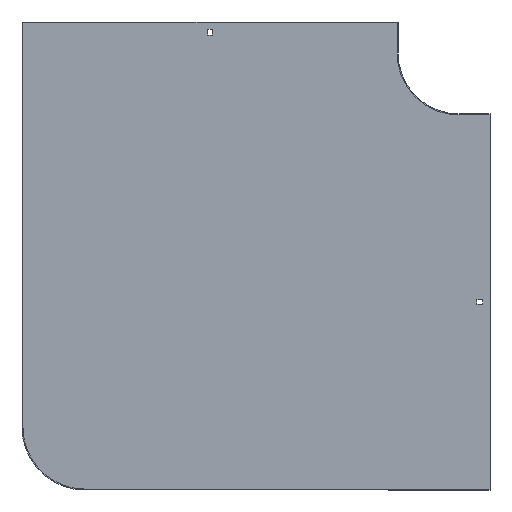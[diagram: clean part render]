
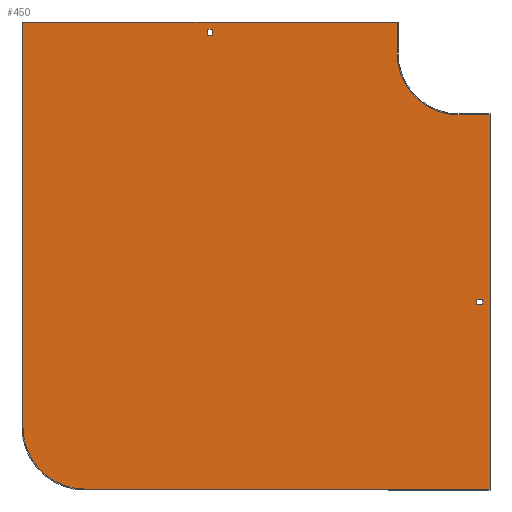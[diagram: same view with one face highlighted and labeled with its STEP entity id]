
A CAD part, front view. The second image highlights one B-rep face of the part: STEP entity #450.
In plain terms, the highlighted planar face has unit normal (0, -1, 0).
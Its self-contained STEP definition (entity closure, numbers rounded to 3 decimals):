
#4 = DIRECTION ( 'NONE',  ( 1., 0., 0. ) ) ;
#10 = CIRCLE ( 'NONE', #461, 100. ) ;
#13 = LINE ( 'NONE', #540, #410 ) ;
#17 = ORIENTED_EDGE ( 'NONE', *, *, #48, .T. ) ;
#24 = VERTEX_POINT ( 'NONE', #786 ) ;
#25 = LINE ( 'NONE', #701, #618 ) ;
#38 = EDGE_CURVE ( 'NONE', #767, #107, #50, .T. ) ;
#45 = DIRECTION ( 'NONE',  ( 0., 1., 0. ) ) ;
#48 = EDGE_CURVE ( 'NONE', #146, #24, #238, .T. ) ;
#50 = LINE ( 'NONE', #301, #672 ) ;
#57 = EDGE_CURVE ( 'NONE', #107, #133, #195, .T. ) ;
#60 = EDGE_CURVE ( 'NONE', #768, #151, #93, .T. ) ;
#65 = DIRECTION ( 'NONE',  ( 0., 0., -1. ) ) ;
#72 = LINE ( 'NONE', #667, #529 ) ;
#74 = CARTESIAN_POINT ( 'NONE',  ( -405.25, -1.5, 38. ) ) ;
#84 = LINE ( 'NONE', #350, #538 ) ;
#93 = LINE ( 'NONE', #378, #592 ) ;
#103 = DIRECTION ( 'NONE',  ( 0., 0., -1. ) ) ;
#107 = VERTEX_POINT ( 'NONE', #702 ) ;
#109 = VERTEX_POINT ( 'NONE', #758 ) ;
#122 = DIRECTION ( 'NONE',  ( 0., 0., -1. ) ) ;
#124 = DIRECTION ( 'NONE',  ( 0., 0., -1. ) ) ;
#126 = CARTESIAN_POINT ( 'NONE',  ( 38., -1.5, -398.75 ) ) ;
#130 = CARTESIAN_POINT ( 'NONE',  ( 38., -1.5, 0. ) ) ;
#133 = VERTEX_POINT ( 'NONE', #562 ) ;
#146 = VERTEX_POINT ( 'NONE', #150 ) ;
#150 = CARTESIAN_POINT ( 'NONE',  ( -398.75, -1.5, 29. ) ) ;
#151 = VERTEX_POINT ( 'NONE', #421 ) ;
#153 = CARTESIAN_POINT ( 'NONE',  ( 50., -1.5, -704. ) ) ;
#165 = VERTEX_POINT ( 'NONE', #519 ) ;
#167 = FACE_BOUND ( 'NONE', #611, .T. ) ;
#169 = VERTEX_POINT ( 'NONE', #181 ) ;
#172 = VECTOR ( 'NONE', #124, 1000. ) ;
#181 = CARTESIAN_POINT ( 'NONE',  ( 29., -1.5, -398.75 ) ) ;
#192 = EDGE_CURVE ( 'NONE', #133, #303, #383, .T. ) ;
#194 = DIRECTION ( 'NONE',  ( 0., 0., 1. ) ) ;
#195 = CIRCLE ( 'NONE', #616, 100. ) ;
#202 = DIRECTION ( 'NONE',  ( 1., 0., 0. ) ) ;
#224 = DIRECTION ( 'NONE',  ( -1., 0., 0. ) ) ;
#233 = VECTOR ( 'NONE', #194, 1000. ) ;
#238 = LINE ( 'NONE', #766, #528 ) ;
#245 = EDGE_CURVE ( 'NONE', #704, #169, #464, .T. ) ;
#252 = EDGE_CURVE ( 'NONE', #708, #430, #13, .T. ) ;
#255 = DIRECTION ( 'NONE',  ( 0., -1., 0. ) ) ;
#275 = ORIENTED_EDGE ( 'NONE', *, *, #245, .F. ) ;
#285 = CARTESIAN_POINT ( 'NONE',  ( 0., -1.5, -100. ) ) ;
#288 = ORIENTED_EDGE ( 'NONE', *, *, #365, .F. ) ;
#292 = CARTESIAN_POINT ( 'NONE',  ( -604., -1.5, -604. ) ) ;
#298 = EDGE_LOOP ( 'NONE', ( #442, #575, #448, #828, #355, #835, #633, #634 ) ) ;
#301 = CARTESIAN_POINT ( 'NONE',  ( 50., -1.5, -704. ) ) ;
#302 = VECTOR ( 'NONE', #812, 1000. ) ;
#303 = VERTEX_POINT ( 'NONE', #532 ) ;
#306 = EDGE_CURVE ( 'NONE', #517, #109, #804, .T. ) ;
#307 = DIRECTION ( 'NONE',  ( 0., 0., -1. ) ) ;
#319 = EDGE_CURVE ( 'NONE', #165, #820, #72, .T. ) ;
#333 = DIRECTION ( 'NONE',  ( 1., 0., 0. ) ) ;
#350 = CARTESIAN_POINT ( 'NONE',  ( -405.25, -1.5, 0. ) ) ;
#352 = VECTOR ( 'NONE', #122, 1000. ) ;
#355 = ORIENTED_EDGE ( 'NONE', *, *, #655, .F. ) ;
#359 = DIRECTION ( 'NONE',  ( 0., 0., -1. ) ) ;
#365 = EDGE_CURVE ( 'NONE', #820, #704, #795, .T. ) ;
#378 = CARTESIAN_POINT ( 'NONE',  ( -100., -1.5, 50. ) ) ;
#383 = LINE ( 'NONE', #577, #710 ) ;
#386 = EDGE_CURVE ( 'NONE', #303, #768, #25, .T. ) ;
#408 = EDGE_LOOP ( 'NONE', ( #275, #288, #735, #629 ) ) ;
#410 = VECTOR ( 'NONE', #4, 1000. ) ;
#413 = CARTESIAN_POINT ( 'NONE',  ( 38., -1.5, -405.25 ) ) ;
#421 = CARTESIAN_POINT ( 'NONE',  ( -100., -1.5, 0. ) ) ;
#425 = CARTESIAN_POINT ( 'NONE',  ( -100., -1.5, 50. ) ) ;
#428 = FACE_OUTER_BOUND ( 'NONE', #298, .T. ) ;
#430 = VERTEX_POINT ( 'NONE', #770 ) ;
#440 = DIRECTION ( 'NONE',  ( 1., 0., 0. ) ) ;
#442 = ORIENTED_EDGE ( 'NONE', *, *, #386, .F. ) ;
#446 = DIRECTION ( 'NONE',  ( -1., 0., 0. ) ) ;
#448 = ORIENTED_EDGE ( 'NONE', *, *, #57, .F. ) ;
#450 = ADVANCED_FACE ( 'NONE', ( #831, #428, #167 ), #551, .T. ) ;
#458 = CARTESIAN_POINT ( 'NONE',  ( -398.75, -1.5, 0. ) ) ;
#459 = DIRECTION ( 'NONE',  ( 0., 0., 1. ) ) ;
#461 = AXIS2_PLACEMENT_3D ( 'NONE', #858, #255, #784 ) ;
#464 = LINE ( 'NONE', #670, #302 ) ;
#493 = DIRECTION ( 'NONE',  ( 0., 0., 1. ) ) ;
#500 = AXIS2_PLACEMENT_3D ( 'NONE', #614, #706, #103 ) ;
#517 = VERTEX_POINT ( 'NONE', #285 ) ;
#519 = CARTESIAN_POINT ( 'NONE',  ( 29., -1.5, -405.25 ) ) ;
#528 = VECTOR ( 'NONE', #224, 1000. ) ;
#529 = VECTOR ( 'NONE', #333, 1000. ) ;
#532 = CARTESIAN_POINT ( 'NONE',  ( -704., -1.5, 50. ) ) ;
#533 = EDGE_CURVE ( 'NONE', #430, #146, #647, .T. ) ;
#538 = VECTOR ( 'NONE', #493, 1000. ) ;
#540 = CARTESIAN_POINT ( 'NONE',  ( 0., -1.5, 38. ) ) ;
#551 = PLANE ( 'NONE',  #500 ) ;
#562 = CARTESIAN_POINT ( 'NONE',  ( -704., -1.5, -604. ) ) ;
#575 = ORIENTED_EDGE ( 'NONE', *, *, #192, .F. ) ;
#577 = CARTESIAN_POINT ( 'NONE',  ( -704., -1.5, -604. ) ) ;
#589 = EDGE_CURVE ( 'NONE', #151, #517, #10, .T. ) ;
#592 = VECTOR ( 'NONE', #307, 1000. ) ;
#601 = LINE ( 'NONE', #741, #604 ) ;
#604 = VECTOR ( 'NONE', #65, 1000. ) ;
#606 = LINE ( 'NONE', #608, #172 ) ;
#608 = CARTESIAN_POINT ( 'NONE',  ( 29., -1.5, 0. ) ) ;
#611 = EDGE_LOOP ( 'NONE', ( #809, #612, #17, #683 ) ) ;
#612 = ORIENTED_EDGE ( 'NONE', *, *, #533, .T. ) ;
#614 = CARTESIAN_POINT ( 'NONE',  ( 0., -1.5, 0. ) ) ;
#616 = AXIS2_PLACEMENT_3D ( 'NONE', #292, #45, #359 ) ;
#618 = VECTOR ( 'NONE', #440, 1000. ) ;
#629 = ORIENTED_EDGE ( 'NONE', *, *, #723, .F. ) ;
#633 = ORIENTED_EDGE ( 'NONE', *, *, #589, .F. ) ;
#634 = ORIENTED_EDGE ( 'NONE', *, *, #60, .F. ) ;
#647 = LINE ( 'NONE', #458, #352 ) ;
#655 = EDGE_CURVE ( 'NONE', #109, #767, #601, .T. ) ;
#667 = CARTESIAN_POINT ( 'NONE',  ( 0., -1.5, -405.25 ) ) ;
#670 = CARTESIAN_POINT ( 'NONE',  ( 0., -1.5, -398.75 ) ) ;
#672 = VECTOR ( 'NONE', #446, 1000. ) ;
#673 = VECTOR ( 'NONE', #202, 1000. ) ;
#677 = CARTESIAN_POINT ( 'NONE',  ( 0., -1.5, -100. ) ) ;
#683 = ORIENTED_EDGE ( 'NONE', *, *, #848, .T. ) ;
#701 = CARTESIAN_POINT ( 'NONE',  ( -705.5, -1.5, 50. ) ) ;
#702 = CARTESIAN_POINT ( 'NONE',  ( -604., -1.5, -704. ) ) ;
#704 = VERTEX_POINT ( 'NONE', #126 ) ;
#706 = DIRECTION ( 'NONE',  ( 0., -1., 0. ) ) ;
#708 = VERTEX_POINT ( 'NONE', #74 ) ;
#710 = VECTOR ( 'NONE', #459, 1000. ) ;
#723 = EDGE_CURVE ( 'NONE', #169, #165, #606, .T. ) ;
#735 = ORIENTED_EDGE ( 'NONE', *, *, #319, .F. ) ;
#741 = CARTESIAN_POINT ( 'NONE',  ( 50., -1.5, -98.5 ) ) ;
#758 = CARTESIAN_POINT ( 'NONE',  ( 50., -1.5, -100. ) ) ;
#766 = CARTESIAN_POINT ( 'NONE',  ( 0., -1.5, 29. ) ) ;
#767 = VERTEX_POINT ( 'NONE', #153 ) ;
#768 = VERTEX_POINT ( 'NONE', #425 ) ;
#770 = CARTESIAN_POINT ( 'NONE',  ( -398.75, -1.5, 38. ) ) ;
#784 = DIRECTION ( 'NONE',  ( 0., 0., -1. ) ) ;
#786 = CARTESIAN_POINT ( 'NONE',  ( -405.25, -1.5, 29. ) ) ;
#795 = LINE ( 'NONE', #130, #233 ) ;
#804 = LINE ( 'NONE', #677, #673 ) ;
#809 = ORIENTED_EDGE ( 'NONE', *, *, #252, .T. ) ;
#812 = DIRECTION ( 'NONE',  ( -1., 0., 0. ) ) ;
#820 = VERTEX_POINT ( 'NONE', #413 ) ;
#828 = ORIENTED_EDGE ( 'NONE', *, *, #38, .F. ) ;
#831 = FACE_BOUND ( 'NONE', #408, .T. ) ;
#835 = ORIENTED_EDGE ( 'NONE', *, *, #306, .F. ) ;
#848 = EDGE_CURVE ( 'NONE', #24, #708, #84, .T. ) ;
#858 = CARTESIAN_POINT ( 'NONE',  ( 0., -1.5, 0. ) ) ;
